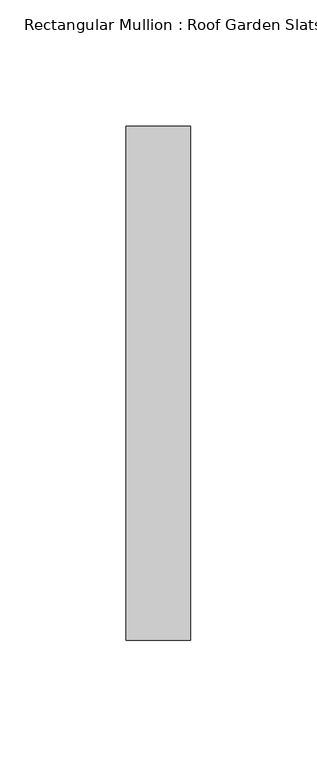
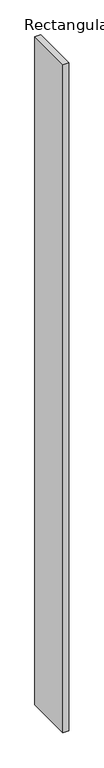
"""IFC4 building model written with IfcOpenShell, lengths in millimetres: member geometry, Rectangular Mullion : Roof Garden Slats."""

from ifc_helpers import new_model, si_unit, frame, origin, place, context, project, spatial, polyline, outline, extrude, source, transform, mapped, element, save


def rectangular_mullion_roof_garden_slats_00e8a8b5(model_context):
    return source(origin(), model_context, "Body", "SweptSolid", [
        extrude(outline(polyline([(12.7, 139.7), (12.7, -63.5), (-12.7, -63.5), (-12.7, 139.7), (12.7, 139.7)])), frame((0.0, 0.0, -2962.9502931), z_axis=(0.0, 0.0, 1.0), x_axis=(1.0, 0.0, 0.0)), (0.0, 0.0, 1.0), 2962.9502931),
    ])


if __name__ == "__main__":
    model = new_model("IFC4")
    model_context = context("Model", 3, world=origin())
    ifc_project = project(units=[si_unit("LENGTHUNIT", "METRE", prefix="MILLI")], contexts=[model_context])
    site = spatial("IfcSite", under=ifc_project)
    building = spatial("IfcBuilding", under=site)
    placement = place(None, origin())
    rectangular_mullion_roof_garden_slats_shape = rectangular_mullion_roof_garden_slats_00e8a8b5(model_context)
    element("IfcMember", 1, ObjectType="Rectangular Mullion : Roof Garden Slats", at=placement, inside=building, context=model_context, shape_type="MappedRepresentation", body=[
        mapped(rectangular_mullion_roof_garden_slats_shape, transform((0.0, 0.0, 0.0), x_axis=(1.0, 0.0, 0.0), y_axis=(0.0, 1.0, 0.0), z_axis=(0.0, 0.0, 1.0))),
    ])
    save(model, "model.ifc")
